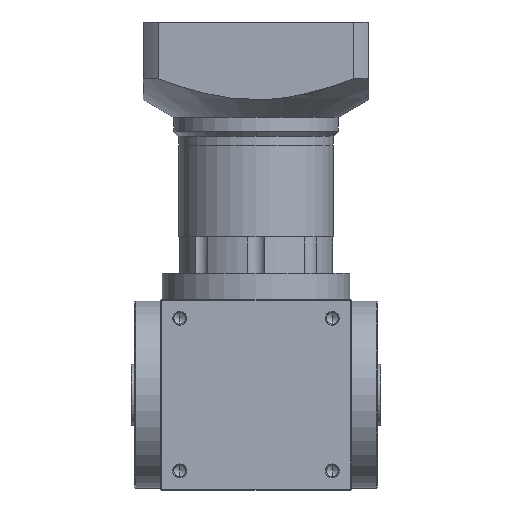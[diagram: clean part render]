
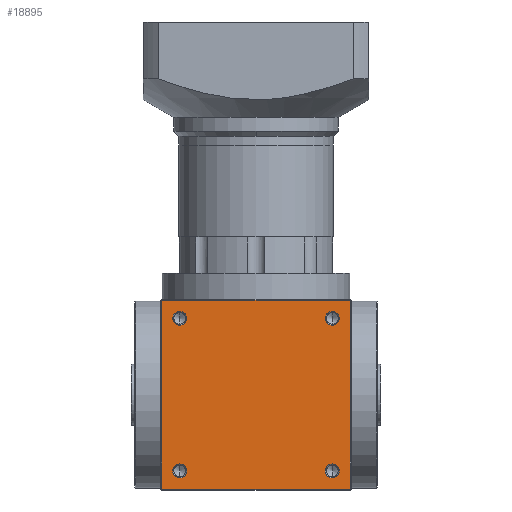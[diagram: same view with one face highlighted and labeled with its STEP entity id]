
A CAD part, front view. The second image highlights one B-rep face of the part: STEP entity #18895.
In plain terms, the highlighted planar face has unit normal (0, -1, 0).
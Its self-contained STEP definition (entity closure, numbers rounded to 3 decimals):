
#261 = DIRECTION ( 'NONE',  ( 1., 0., 0. ) ) ;
#318 = VERTEX_POINT ( 'NONE', #13652 ) ;
#440 = DIRECTION ( 'NONE',  ( 0., -1., 0. ) ) ;
#607 = CARTESIAN_POINT ( 'NONE',  ( 44., -55., 99. ) ) ;
#671 = VECTOR ( 'NONE', #33077, 1000. ) ;
#1471 = EDGE_CURVE ( 'NONE', #29733, #40597, #12846, .T. ) ;
#2261 = VERTEX_POINT ( 'NONE', #8886 ) ;
#2594 = EDGE_CURVE ( 'NONE', #28535, #7416, #15322, .T. ) ;
#3772 = VECTOR ( 'NONE', #12644, 1000. ) ;
#4113 = FACE_BOUND ( 'NONE', #51975, .T. ) ;
#4292 = CARTESIAN_POINT ( 'NONE',  ( 54.5, -55., 0.5 ) ) ;
#4482 = ORIENTED_EDGE ( 'NONE', *, *, #8779, .F. ) ;
#4638 = AXIS2_PLACEMENT_3D ( 'NONE', #9629, #38094, #13745 ) ;
#5819 = DIRECTION ( 'NONE',  ( 0., -1., 0. ) ) ;
#6615 = VERTEX_POINT ( 'NONE', #9586 ) ;
#6886 = LINE ( 'NONE', #40808, #46384 ) ;
#7416 = VERTEX_POINT ( 'NONE', #51973 ) ;
#7445 = CARTESIAN_POINT ( 'NONE',  ( -55., -55., 110. ) ) ;
#8108 = EDGE_LOOP ( 'NONE', ( #22594, #41110 ) ) ;
#8370 = CARTESIAN_POINT ( 'NONE',  ( -54.5, -55., 109.5 ) ) ;
#8779 = EDGE_CURVE ( 'NONE', #318, #2261, #50067, .T. ) ;
#8886 = CARTESIAN_POINT ( 'NONE',  ( 39.975, -55., 99. ) ) ;
#9586 = CARTESIAN_POINT ( 'NONE',  ( -39.975, -55., 11. ) ) ;
#9629 = CARTESIAN_POINT ( 'NONE',  ( -44., -55., 11. ) ) ;
#11927 = ORIENTED_EDGE ( 'NONE', *, *, #40131, .F. ) ;
#11955 = EDGE_LOOP ( 'NONE', ( #21219, #51023 ) ) ;
#12053 = PLANE ( 'NONE',  #34496 ) ;
#12352 = DIRECTION ( 'NONE',  ( 0., 0., 1. ) ) ;
#12479 = DIRECTION ( 'NONE',  ( 1., 0., 0. ) ) ;
#12640 = DIRECTION ( 'NONE',  ( 0., -1., 0. ) ) ;
#12644 = DIRECTION ( 'NONE',  ( 0., 0., -1. ) ) ;
#12810 = CARTESIAN_POINT ( 'NONE',  ( -44., -55., 99. ) ) ;
#12846 = CIRCLE ( 'NONE', #29653, 4.025 ) ;
#12881 = CARTESIAN_POINT ( 'NONE',  ( 44., -55., 11. ) ) ;
#13260 = LINE ( 'NONE', #30028, #22869 ) ;
#13559 = CARTESIAN_POINT ( 'NONE',  ( 39.975, -55., 11. ) ) ;
#13652 = CARTESIAN_POINT ( 'NONE',  ( 48.025, -55., 99. ) ) ;
#13745 = DIRECTION ( 'NONE',  ( 1., 0., 0. ) ) ;
#14438 = ORIENTED_EDGE ( 'NONE', *, *, #23133, .F. ) ;
#15322 = LINE ( 'NONE', #33423, #671 ) ;
#15924 = AXIS2_PLACEMENT_3D ( 'NONE', #607, #440, #261 ) ;
#15971 = DIRECTION ( 'NONE',  ( 0., -1., 0. ) ) ;
#16999 = DIRECTION ( 'NONE',  ( 1., 0., 0. ) ) ;
#18832 = ORIENTED_EDGE ( 'NONE', *, *, #22496, .F. ) ;
#18895 = ADVANCED_FACE ( 'NONE', ( #25805, #4113, #36561, #46160, #35286 ), #12053, .F. ) ;
#20935 = EDGE_LOOP ( 'NONE', ( #47911, #11927 ) ) ;
#21219 = ORIENTED_EDGE ( 'NONE', *, *, #43258, .F. ) ;
#21223 = CARTESIAN_POINT ( 'NONE',  ( -48.025, -55., 99. ) ) ;
#21266 = AXIS2_PLACEMENT_3D ( 'NONE', #30224, #5819, #34281 ) ;
#22496 = EDGE_CURVE ( 'NONE', #7416, #42138, #47077, .T. ) ;
#22594 = ORIENTED_EDGE ( 'NONE', *, *, #27163, .F. ) ;
#22869 = VECTOR ( 'NONE', #46221, 1000. ) ;
#22876 = DIRECTION ( 'NONE',  ( 0., -1., 0. ) ) ;
#23133 = EDGE_CURVE ( 'NONE', #42138, #36153, #13260, .T. ) ;
#23668 = EDGE_CURVE ( 'NONE', #6615, #24697, #51363, .T. ) ;
#23769 = DIRECTION ( 'NONE',  ( 0., -1., 0. ) ) ;
#24023 = AXIS2_PLACEMENT_3D ( 'NONE', #47203, #22876, #51241 ) ;
#24378 = DIRECTION ( 'NONE',  ( 0., 0., 1. ) ) ;
#24697 = VERTEX_POINT ( 'NONE', #51829 ) ;
#25805 = FACE_BOUND ( 'NONE', #11955, .T. ) ;
#25956 = VERTEX_POINT ( 'NONE', #13559 ) ;
#26357 = CIRCLE ( 'NONE', #46733, 4.025 ) ;
#27163 = EDGE_CURVE ( 'NONE', #40597, #29733, #39372, .T. ) ;
#27652 = CIRCLE ( 'NONE', #43839, 4.025 ) ;
#27719 = CIRCLE ( 'NONE', #24023, 4.025 ) ;
#28001 = AXIS2_PLACEMENT_3D ( 'NONE', #48115, #23769, #52147 ) ;
#28535 = VERTEX_POINT ( 'NONE', #8370 ) ;
#29231 = EDGE_LOOP ( 'NONE', ( #38369, #52568, #14438, #18832 ) ) ;
#29653 = AXIS2_PLACEMENT_3D ( 'NONE', #12810, #12640, #12479 ) ;
#29733 = VERTEX_POINT ( 'NONE', #21223 ) ;
#30028 = CARTESIAN_POINT ( 'NONE',  ( -55., -55., 0.5 ) ) ;
#30224 = CARTESIAN_POINT ( 'NONE',  ( -44., -55., 11. ) ) ;
#30924 = EDGE_CURVE ( 'NONE', #2261, #318, #27719, .T. ) ;
#33077 = DIRECTION ( 'NONE',  ( 1., 0., 0. ) ) ;
#33423 = CARTESIAN_POINT ( 'NONE',  ( -55., -55., 109.5 ) ) ;
#34281 = DIRECTION ( 'NONE',  ( 1., 0., 0. ) ) ;
#34496 = AXIS2_PLACEMENT_3D ( 'NONE', #7445, #48709, #24378 ) ;
#35286 = FACE_OUTER_BOUND ( 'NONE', #29231, .T. ) ;
#35965 = ORIENTED_EDGE ( 'NONE', *, *, #30924, .F. ) ;
#36153 = VERTEX_POINT ( 'NONE', #41302 ) ;
#36561 = FACE_BOUND ( 'NONE', #8108, .T. ) ;
#36822 = VERTEX_POINT ( 'NONE', #48253 ) ;
#37543 = EDGE_CURVE ( 'NONE', #25956, #36822, #26357, .T. ) ;
#38094 = DIRECTION ( 'NONE',  ( 0., -1., 0. ) ) ;
#38369 = ORIENTED_EDGE ( 'NONE', *, *, #2594, .F. ) ;
#39329 = CARTESIAN_POINT ( 'NONE',  ( -39.975, -55., 99. ) ) ;
#39372 = CIRCLE ( 'NONE', #28001, 4.025 ) ;
#40131 = EDGE_CURVE ( 'NONE', #24697, #6615, #52698, .T. ) ;
#40267 = EDGE_CURVE ( 'NONE', #36153, #28535, #6886, .T. ) ;
#40334 = CARTESIAN_POINT ( 'NONE',  ( 44., -55., 11. ) ) ;
#40597 = VERTEX_POINT ( 'NONE', #39329 ) ;
#40808 = CARTESIAN_POINT ( 'NONE',  ( -54.5, -55., 110. ) ) ;
#41110 = ORIENTED_EDGE ( 'NONE', *, *, #1471, .F. ) ;
#41302 = CARTESIAN_POINT ( 'NONE',  ( -54.5, -55., 0.5 ) ) ;
#41375 = DIRECTION ( 'NONE',  ( 0., -1., 0. ) ) ;
#42138 = VERTEX_POINT ( 'NONE', #4292 ) ;
#43258 = EDGE_CURVE ( 'NONE', #36822, #25956, #27652, .T. ) ;
#43839 = AXIS2_PLACEMENT_3D ( 'NONE', #12881, #41375, #16999 ) ;
#44463 = DIRECTION ( 'NONE',  ( 1., 0., 0. ) ) ;
#46160 = FACE_BOUND ( 'NONE', #20935, .T. ) ;
#46221 = DIRECTION ( 'NONE',  ( -1., 0., 0. ) ) ;
#46384 = VECTOR ( 'NONE', #12352, 1000. ) ;
#46733 = AXIS2_PLACEMENT_3D ( 'NONE', #40334, #15971, #44463 ) ;
#47077 = LINE ( 'NONE', #49306, #3772 ) ;
#47203 = CARTESIAN_POINT ( 'NONE',  ( 44., -55., 99. ) ) ;
#47911 = ORIENTED_EDGE ( 'NONE', *, *, #23668, .F. ) ;
#48115 = CARTESIAN_POINT ( 'NONE',  ( -44., -55., 99. ) ) ;
#48253 = CARTESIAN_POINT ( 'NONE',  ( 48.025, -55., 11. ) ) ;
#48709 = DIRECTION ( 'NONE',  ( 0., 1., 0. ) ) ;
#49306 = CARTESIAN_POINT ( 'NONE',  ( 54.5, -55., 110. ) ) ;
#50067 = CIRCLE ( 'NONE', #15924, 4.025 ) ;
#51023 = ORIENTED_EDGE ( 'NONE', *, *, #37543, .F. ) ;
#51241 = DIRECTION ( 'NONE',  ( 1., 0., 0. ) ) ;
#51363 = CIRCLE ( 'NONE', #4638, 4.025 ) ;
#51829 = CARTESIAN_POINT ( 'NONE',  ( -48.025, -55., 11. ) ) ;
#51973 = CARTESIAN_POINT ( 'NONE',  ( 54.5, -55., 109.5 ) ) ;
#51975 = EDGE_LOOP ( 'NONE', ( #4482, #35965 ) ) ;
#52147 = DIRECTION ( 'NONE',  ( 1., 0., 0. ) ) ;
#52568 = ORIENTED_EDGE ( 'NONE', *, *, #40267, .F. ) ;
#52698 = CIRCLE ( 'NONE', #21266, 4.025 ) ;
